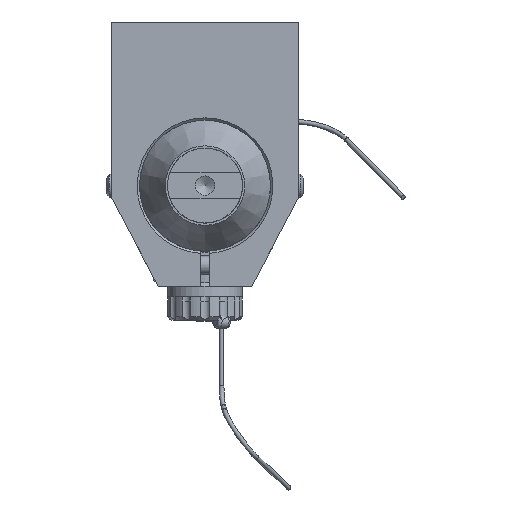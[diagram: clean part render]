
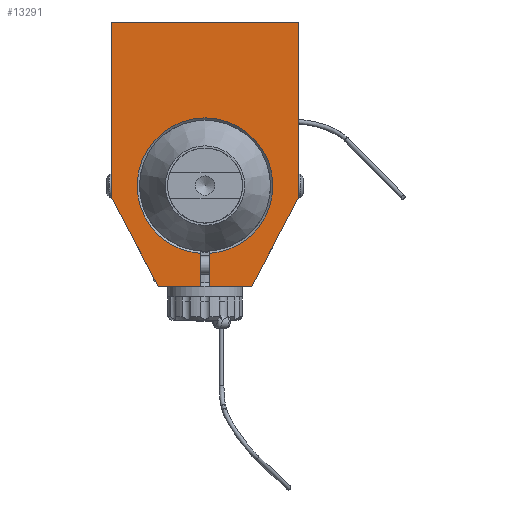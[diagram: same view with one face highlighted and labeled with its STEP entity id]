
A CAD part, top view. The second image highlights one B-rep face of the part: STEP entity #13291.
In plain terms, the highlighted planar face has unit normal (0, 0, 1) as drawn and (-1, 0, 0) by its records, which use the part's own axes.
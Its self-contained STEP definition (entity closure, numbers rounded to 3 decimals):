
#1181=CIRCLE('',#14346,14.5);
#1644=PLANE('',#14353);
#2271=FACE_OUTER_BOUND('',#3125,.T.);
#3125=EDGE_LOOP('',(#11910,#11911,#11912,#11913,#11914,#11915,#11916,#11917,
#11918,#11919));
#4031=LINE('',#24490,#4784);
#4035=LINE('',#24500,#4788);
#4042=LINE('',#24620,#4795);
#4044=LINE('',#24629,#4797);
#4049=LINE('',#24648,#4802);
#4052=LINE('',#24657,#4805);
#4055=LINE('',#24664,#4808);
#4057=LINE('',#24667,#4810);
#4059=LINE('',#24670,#4812);
#4784=VECTOR('',#16970,37.5);
#4788=VECTOR('',#16980,40.);
#4795=VECTOR('',#17033,7.035);
#4797=VECTOR('',#17037,21.471);
#4802=VECTOR('',#17044,7.035);
#4805=VECTOR('',#17055,9.);
#4808=VECTOR('',#17064,21.471);
#4810=VECTOR('',#17068,37.5);
#4812=VECTOR('',#17072,9.);
#6513=VERTEX_POINT('',#24487);
#6514=VERTEX_POINT('',#24489);
#6517=VERTEX_POINT('',#24499);
#6535=VERTEX_POINT('',#24617);
#6536=VERTEX_POINT('',#24619);
#6538=VERTEX_POINT('',#24627);
#6539=VERTEX_POINT('',#24628);
#6545=VERTEX_POINT('',#24643);
#6546=VERTEX_POINT('',#24647);
#6548=VERTEX_POINT('',#24656);
#8345=EDGE_CURVE('',#6514,#6513,#4031,.T.);
#8350=EDGE_CURVE('',#6514,#6517,#4035,.T.);
#8371=EDGE_CURVE('',#6536,#6535,#4042,.T.);
#8374=EDGE_CURVE('',#6538,#6539,#4044,.T.);
#8381=EDGE_CURVE('',#6546,#6545,#4049,.T.);
#8384=EDGE_CURVE('',#6536,#6545,#1181,.T.);
#8386=EDGE_CURVE('',#6546,#6548,#4052,.T.);
#8390=EDGE_CURVE('',#6513,#6548,#4055,.T.);
#8392=EDGE_CURVE('',#6539,#6517,#4057,.T.);
#8394=EDGE_CURVE('',#6538,#6535,#4059,.T.);
#11910=ORIENTED_EDGE('',*,*,#8371,.T.);
#11911=ORIENTED_EDGE('',*,*,#8394,.F.);
#11912=ORIENTED_EDGE('',*,*,#8374,.T.);
#11913=ORIENTED_EDGE('',*,*,#8392,.T.);
#11914=ORIENTED_EDGE('',*,*,#8350,.F.);
#11915=ORIENTED_EDGE('',*,*,#8345,.T.);
#11916=ORIENTED_EDGE('',*,*,#8390,.T.);
#11917=ORIENTED_EDGE('',*,*,#8386,.F.);
#11918=ORIENTED_EDGE('',*,*,#8381,.T.);
#11919=ORIENTED_EDGE('',*,*,#8384,.F.);
#13291=ADVANCED_FACE('',(#2271),#1644,.T.);
#14346=AXIS2_PLACEMENT_3D('',#24653,#17049,#17050);
#14353=AXIS2_PLACEMENT_3D('',#24669,#17070,#17071);
#16970=DIRECTION('',(0.,1.,0.));
#16980=DIRECTION('',(0.,0.,-1.));
#17033=DIRECTION('',(0.,1.,0.));
#17037=DIRECTION('',(0.,-0.885,-0.466));
#17044=DIRECTION('',(0.,-1.,0.));
#17049=DIRECTION('center_axis',(-1.,0.,0.));
#17050=DIRECTION('ref_axis',(0.,0.,-1.));
#17055=DIRECTION('',(0.,0.,1.));
#17064=DIRECTION('',(0.,0.885,-0.466));
#17068=DIRECTION('',(0.,-1.,0.));
#17070=DIRECTION('center_axis',(-1.,0.,0.));
#17071=DIRECTION('ref_axis',(0.,0.,1.));
#17072=DIRECTION('',(0.,0.,1.));
#24487=CARTESIAN_POINT('',(7.899,27.322,20.));
#24489=CARTESIAN_POINT('',(7.899,-10.178,20.));
#24490=CARTESIAN_POINT('',(7.899,-10.178,20.));
#24499=CARTESIAN_POINT('',(7.899,-10.178,-20.));
#24500=CARTESIAN_POINT('',(7.899,-10.178,0.));
#24617=CARTESIAN_POINT('',(7.899,46.322,-1.));
#24619=CARTESIAN_POINT('',(7.899,39.288,-1.));
#24620=CARTESIAN_POINT('',(7.899,18.072,-1.));
#24627=CARTESIAN_POINT('',(7.899,46.322,-10.));
#24628=CARTESIAN_POINT('',(7.899,27.322,-20.));
#24629=CARTESIAN_POINT('',(7.899,26.261,-20.559));
#24643=CARTESIAN_POINT('',(7.899,39.288,1.));
#24647=CARTESIAN_POINT('',(7.899,46.322,1.));
#24648=CARTESIAN_POINT('',(7.899,18.072,1.));
#24653=CARTESIAN_POINT('Origin',(7.899,24.822,0.));
#24656=CARTESIAN_POINT('',(7.899,46.322,10.));
#24657=CARTESIAN_POINT('',(7.899,46.322,0.));
#24664=CARTESIAN_POINT('',(7.899,16.761,25.559));
#24667=CARTESIAN_POINT('',(7.899,-10.178,-20.));
#24669=CARTESIAN_POINT('Origin',(7.899,-10.178,0.));
#24670=CARTESIAN_POINT('',(7.899,46.322,0.));
